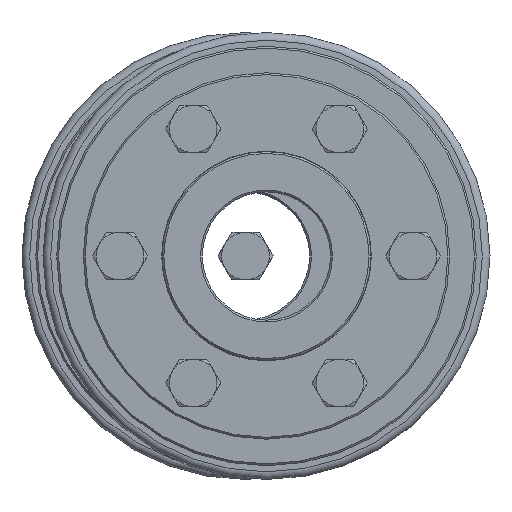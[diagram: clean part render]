
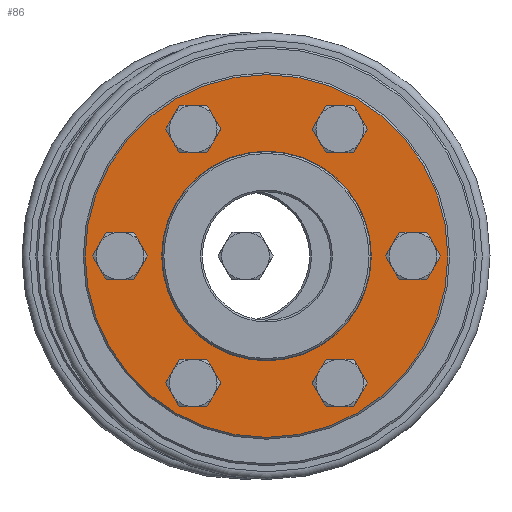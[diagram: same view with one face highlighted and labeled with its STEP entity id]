
A CAD part, left-side view. The second image highlights one B-rep face of the part: STEP entity #86.
In plain terms, the highlighted planar face has unit normal (-1, 0, 0).
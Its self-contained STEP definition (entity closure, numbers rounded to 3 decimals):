
#86 = ADVANCED_FACE( 'NONE', ( #175, #176, #177, #178, #179, #180, #181, #182 ), #183, .F. );
#175 = FACE_OUTER_BOUND( '', #287, .T. );
#176 = FACE_BOUND( '', #288, .T. );
#177 = FACE_BOUND( '', #289, .T. );
#178 = FACE_BOUND( '', #290, .T. );
#179 = FACE_BOUND( '', #291, .T. );
#180 = FACE_BOUND( '', #292, .T. );
#181 = FACE_BOUND( '', #293, .T. );
#182 = FACE_BOUND( '', #294, .T. );
#183 = PLANE( '', #295 );
#287 = EDGE_LOOP( '', ( #500 ) );
#288 = EDGE_LOOP( '', ( #501 ) );
#289 = EDGE_LOOP( '', ( #502 ) );
#290 = EDGE_LOOP( '', ( #503 ) );
#291 = EDGE_LOOP( '', ( #504 ) );
#292 = EDGE_LOOP( '', ( #505 ) );
#293 = EDGE_LOOP( '', ( #506 ) );
#294 = EDGE_LOOP( '', ( #507 ) );
#295 = AXIS2_PLACEMENT_3D( '', #508, #509, #510 );
#500 = ORIENTED_EDGE( '', *, *, #802, .T. );
#501 = ORIENTED_EDGE( '', *, *, #796, .T. );
#502 = ORIENTED_EDGE( '', *, *, #817, .T. );
#503 = ORIENTED_EDGE( '', *, *, #808, .T. );
#504 = ORIENTED_EDGE( '', *, *, #799, .T. );
#505 = ORIENTED_EDGE( '', *, *, #811, .T. );
#506 = ORIENTED_EDGE( '', *, *, #818, .T. );
#507 = ORIENTED_EDGE( '', *, *, #819, .F. );
#508 = CARTESIAN_POINT( '', ( 0., 28.5, 0. ) );
#509 = DIRECTION( '', ( 1., 0., 0. ) );
#510 = DIRECTION( '', ( 0., 1., 0. ) );
#796 = EDGE_CURVE( 'NONE', #1086, #1086, #1087, .T. );
#799 = EDGE_CURVE( 'NONE', #1091, #1091, #1092, .T. );
#802 = EDGE_CURVE( 'NONE', #1096, #1096, #1097, .T. );
#808 = EDGE_CURVE( 'NONE', #1106, #1106, #1107, .T. );
#811 = EDGE_CURVE( 'NONE', #1111, #1111, #1112, .T. );
#817 = EDGE_CURVE( 'NONE', #1121, #1121, #1122, .T. );
#818 = EDGE_CURVE( 'NONE', #1123, #1123, #1124, .T. );
#819 = EDGE_CURVE( 'NONE', #1125, #1125, #1126, .T. );
#1086 = VERTEX_POINT( '', #1613 );
#1087 = CIRCLE( '', #1614, 4.5 );
#1091 = VERTEX_POINT( '', #1618 );
#1092 = CIRCLE( '', #1619, 4.5 );
#1096 = VERTEX_POINT( '', #1623 );
#1097 = CIRCLE( '', #1624, 49.5 );
#1106 = VERTEX_POINT( '', #1633 );
#1107 = CIRCLE( '', #1634, 4.5 );
#1111 = VERTEX_POINT( '', #1638 );
#1112 = CIRCLE( '', #1639, 4.5 );
#1121 = VERTEX_POINT( '', #1648 );
#1122 = CIRCLE( '', #1649, 4.5 );
#1123 = VERTEX_POINT( '', #1650 );
#1124 = CIRCLE( '', #1651, 4.5 );
#1125 = VERTEX_POINT( '', #1652 );
#1126 = CIRCLE( '', #1653, 28.5 );
#1613 = CARTESIAN_POINT( '', ( 0., 20., 30.141 ) );
#1614 = AXIS2_PLACEMENT_3D( '', #1770, #1771, #1772 );
#1618 = CARTESIAN_POINT( '', ( 0., -20., -39.141 ) );
#1619 = AXIS2_PLACEMENT_3D( '', #1776, #1777, #1778 );
#1623 = CARTESIAN_POINT( '', ( 0., 0., -49.5 ) );
#1624 = AXIS2_PLACEMENT_3D( '', #1782, #1783, #1784 );
#1633 = CARTESIAN_POINT( '', ( 0., -40., -4.5 ) );
#1634 = AXIS2_PLACEMENT_3D( '', #1794, #1795, #1796 );
#1638 = CARTESIAN_POINT( '', ( 0., 20., -39.141 ) );
#1639 = AXIS2_PLACEMENT_3D( '', #1800, #1801, #1802 );
#1648 = CARTESIAN_POINT( '', ( 0., -20., 30.141 ) );
#1649 = AXIS2_PLACEMENT_3D( '', #1812, #1813, #1814 );
#1650 = CARTESIAN_POINT( '', ( 0., 40., -4.5 ) );
#1651 = AXIS2_PLACEMENT_3D( '', #1815, #1816, #1817 );
#1652 = CARTESIAN_POINT( '', ( 0., 0., 28.5 ) );
#1653 = AXIS2_PLACEMENT_3D( '', #1818, #1819, #1820 );
#1770 = CARTESIAN_POINT( '', ( 0., 20., 34.641 ) );
#1771 = DIRECTION( '', ( 1., 0., 0. ) );
#1772 = DIRECTION( '', ( 0., 0., -1. ) );
#1776 = CARTESIAN_POINT( '', ( 0., -20., -34.641 ) );
#1777 = DIRECTION( '', ( 1., 0., 0. ) );
#1778 = DIRECTION( '', ( 0., 0., -1. ) );
#1782 = CARTESIAN_POINT( '', ( 0., 0., 0. ) );
#1783 = DIRECTION( '', ( -1., 0., 0. ) );
#1784 = DIRECTION( '', ( 0., 0., -1. ) );
#1794 = CARTESIAN_POINT( '', ( 0., -40., 0. ) );
#1795 = DIRECTION( '', ( 1., 0., 0. ) );
#1796 = DIRECTION( '', ( 0., 0., -1. ) );
#1800 = CARTESIAN_POINT( '', ( 0., 20., -34.641 ) );
#1801 = DIRECTION( '', ( 1., 0., 0. ) );
#1802 = DIRECTION( '', ( 0., 0., -1. ) );
#1812 = CARTESIAN_POINT( '', ( 0., -20., 34.641 ) );
#1813 = DIRECTION( '', ( 1., 0., 0. ) );
#1814 = DIRECTION( '', ( 0., 0., -1. ) );
#1815 = CARTESIAN_POINT( '', ( 0., 40., 0. ) );
#1816 = DIRECTION( '', ( 1., 0., 0. ) );
#1817 = DIRECTION( '', ( 0., 0., -1. ) );
#1818 = CARTESIAN_POINT( '', ( 0., 0., 0. ) );
#1819 = DIRECTION( '', ( -1., 0., 0. ) );
#1820 = DIRECTION( '', ( 0., 0., 1. ) );
